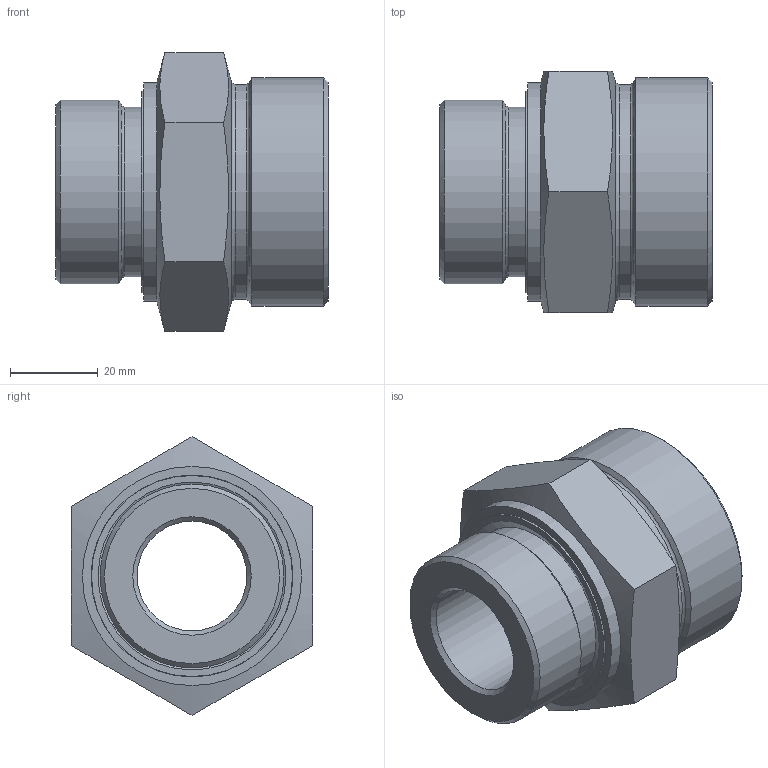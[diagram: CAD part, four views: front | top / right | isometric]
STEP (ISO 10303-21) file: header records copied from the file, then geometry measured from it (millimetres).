
FILE_DESCRIPTION( ( 'Unknown' ), '1' );
FILE_NAME( 'C:/Users/p.nanko/Desktop/3D SR/XGE38SED10.stp', 'Unknown', ( 'Peter Nanko' ), ( 'Armaturen Arndt' ), 'PSStep 14.0', 'Solid Edge ST4', ' ' );
FILE_SCHEMA( ( 'AUTOMOTIVE_DESIGN { 1 0 10303 214 1 1 1 1 }' ) );
Length unit declared in the file: millimetre
Products named in the file (3): Assem1; ED10; XGE38SED103
Assembly tree (2 placements, depth 2):
  Assem1
    ED10
    XGE38SED103
Bounding box: 62 x 55 x 63.51 mm (x, y, z)
Volume: 80158.4 mm3; surface area: 21425.9 mm2
Topology: 2 solids, 2 shells, 37 faces, 74 edges, 45 vertices
Faces by surface type: plane 14, cylinder 10, cone 9, torus 4
Full cylindrical faces by diameter (mm): 25 x1, 38.3 x1, 38.6 x1, 38.8 x1, 41.91 x1, 45.8 x1, 46 x1, 49 x1, 49.9 x1, 52 x1
Entity records: 1246 total; most frequent: CARTESIAN_POINT 230, DIRECTION 146, ORIENTED_EDGE 96, AXIS2_PLACEMENT_3D 70, EDGE_LOOP 68, FACE_OUTER_BOUND 51, EDGE_CURVE 48, VERTEX_POINT 42
